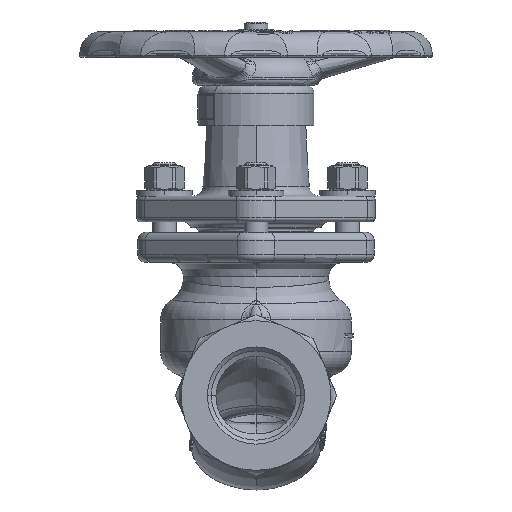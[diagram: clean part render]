
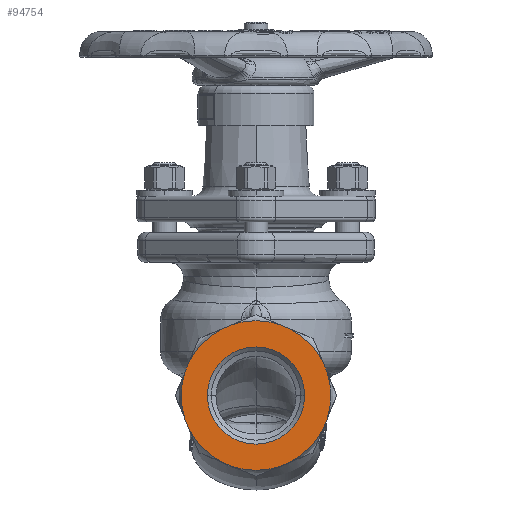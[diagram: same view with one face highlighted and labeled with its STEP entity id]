
A CAD part, left-side view. The second image highlights one B-rep face of the part: STEP entity #94754.
In plain terms, the highlighted planar face has unit normal (-1, 0, 0).
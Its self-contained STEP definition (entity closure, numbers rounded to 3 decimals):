
#10859=CARTESIAN_POINT('',(-92.5,0.,0.));
#10860=DIRECTION('',(1.,0.,0.));
#10861=DIRECTION('',(0.,-1.,0.));
#10862=AXIS2_PLACEMENT_3D('',#10859,#10860,#10861);
#10864=CARTESIAN_POINT('',(-92.5,0.,0.));
#10865=DIRECTION('',(1.,0.,0.));
#10866=DIRECTION('',(0.,1.,0.));
#10867=AXIS2_PLACEMENT_3D('',#10864,#10865,#10866);
#10869=DIRECTION('',(0.,-0.924,-0.383));
#10870=VECTOR('',#10869,5.509);
#10871=CARTESIAN_POINT('',(-92.5,-11.806,35.7));
#10872=LINE('',#10871,#10870);
#10877=CARTESIAN_POINT('',(-92.5,0.,0.));
#10878=DIRECTION('',(-1.,0.,0.));
#10879=DIRECTION('',(0.,-0.314,0.949));
#10880=AXIS2_PLACEMENT_3D('',#10877,#10878,#10879);
#10904=DIRECTION('',(0.,-0.924,0.383));
#10905=VECTOR('',#10904,5.509);
#10906=CARTESIAN_POINT('',(-92.5,16.895,33.591));
#10907=LINE('',#10906,#10905);
#10912=CARTESIAN_POINT('',(-92.5,0.,0.));
#10913=DIRECTION('',(-1.,0.,0.));
#10914=DIRECTION('',(0.,0.449,0.893));
#10915=AXIS2_PLACEMENT_3D('',#10912,#10913,#10914);
#10939=DIRECTION('',(0.,-0.383,0.924));
#10940=VECTOR('',#10939,5.509);
#10941=CARTESIAN_POINT('',(-92.5,35.7,11.806));
#10942=LINE('',#10941,#10940);
#10947=CARTESIAN_POINT('',(-92.5,0.,0.));
#10948=DIRECTION('',(-1.,0.,0.));
#10949=DIRECTION('',(0.,0.949,0.314));
#10950=AXIS2_PLACEMENT_3D('',#10947,#10948,#10949);
#10974=DIRECTION('',(0.,0.383,0.924));
#10975=VECTOR('',#10974,5.509);
#10976=CARTESIAN_POINT('',(-92.5,33.591,-16.895));
#10977=LINE('',#10976,#10975);
#10982=CARTESIAN_POINT('',(-92.5,0.,0.));
#10983=DIRECTION('',(-1.,0.,0.));
#10984=DIRECTION('',(0.,0.893,-0.449));
#10985=AXIS2_PLACEMENT_3D('',#10982,#10983,#10984);
#11009=DIRECTION('',(0.,0.924,0.383));
#11010=VECTOR('',#11009,5.509);
#11011=CARTESIAN_POINT('',(-92.5,11.806,-35.7));
#11012=LINE('',#11011,#11010);
#11017=CARTESIAN_POINT('',(-92.5,0.,0.));
#11018=DIRECTION('',(-1.,0.,0.));
#11019=DIRECTION('',(0.,0.314,-0.949));
#11020=AXIS2_PLACEMENT_3D('',#11017,#11018,#11019);
#11044=DIRECTION('',(0.,0.924,-0.383));
#11045=VECTOR('',#11044,5.509);
#11046=CARTESIAN_POINT('',(-92.5,-16.895,-33.591));
#11047=LINE('',#11046,#11045);
#11052=CARTESIAN_POINT('',(-92.5,0.,0.));
#11053=DIRECTION('',(-1.,0.,0.));
#11054=DIRECTION('',(0.,-0.449,-0.893));
#11055=AXIS2_PLACEMENT_3D('',#11052,#11053,#11054);
#11079=DIRECTION('',(0.,0.383,-0.924));
#11080=VECTOR('',#11079,5.509);
#11081=CARTESIAN_POINT('',(-92.5,-35.7,-11.806));
#11082=LINE('',#11081,#11080);
#11087=CARTESIAN_POINT('',(-92.5,0.,0.));
#11088=DIRECTION('',(-1.,0.,0.));
#11089=DIRECTION('',(0.,-0.949,-0.314));
#11090=AXIS2_PLACEMENT_3D('',#11087,#11088,#11089);
#11114=DIRECTION('',(0.,-0.383,-0.924));
#11115=VECTOR('',#11114,5.509);
#11116=CARTESIAN_POINT('',(-92.5,-33.591,16.895));
#11117=LINE('',#11116,#11115);
#11122=CARTESIAN_POINT('',(-92.5,0.,0.));
#11123=DIRECTION('',(-1.,0.,0.));
#11124=DIRECTION('',(0.,-0.893,0.449));
#11125=AXIS2_PLACEMENT_3D('',#11122,#11123,#11124);
#70023=CARTESIAN_POINT('',(-92.5,-11.806,35.7));
#70024=CARTESIAN_POINT('',(-92.5,-16.895,33.591));
#70025=VERTEX_POINT('',#70023);
#70026=VERTEX_POINT('',#70024);
#70031=CARTESIAN_POINT('',(-92.5,-33.591,16.895));
#70032=CARTESIAN_POINT('',(-92.5,-35.7,11.806));
#70033=VERTEX_POINT('',#70031);
#70034=VERTEX_POINT('',#70032);
#70039=CARTESIAN_POINT('',(-92.5,-35.7,-11.806));
#70040=CARTESIAN_POINT('',(-92.5,-33.591,-16.895));
#70041=VERTEX_POINT('',#70039);
#70042=VERTEX_POINT('',#70040);
#70047=CARTESIAN_POINT('',(-92.5,-16.895,-33.591));
#70048=CARTESIAN_POINT('',(-92.5,-11.806,-35.7));
#70049=VERTEX_POINT('',#70047);
#70050=VERTEX_POINT('',#70048);
#70055=CARTESIAN_POINT('',(-92.5,11.806,-35.7));
#70056=CARTESIAN_POINT('',(-92.5,16.895,-33.591));
#70057=VERTEX_POINT('',#70055);
#70058=VERTEX_POINT('',#70056);
#70063=CARTESIAN_POINT('',(-92.5,33.591,-16.895));
#70064=CARTESIAN_POINT('',(-92.5,35.7,-11.806));
#70065=VERTEX_POINT('',#70063);
#70066=VERTEX_POINT('',#70064);
#70071=CARTESIAN_POINT('',(-92.5,35.7,11.806));
#70072=CARTESIAN_POINT('',(-92.5,33.591,16.895));
#70073=VERTEX_POINT('',#70071);
#70074=VERTEX_POINT('',#70072);
#70079=CARTESIAN_POINT('',(-92.5,16.895,33.591));
#70080=CARTESIAN_POINT('',(-92.5,11.806,35.7));
#70081=VERTEX_POINT('',#70079);
#70082=VERTEX_POINT('',#70080);
#70117=CARTESIAN_POINT('',(-92.5,-24.423,0.));
#70118=CARTESIAN_POINT('',(-92.5,24.423,0.));
#70119=VERTEX_POINT('',#70117);
#70120=VERTEX_POINT('',#70118);
#94710=CARTESIAN_POINT('',(-92.5,0.,0.));
#94711=DIRECTION('',(-1.,0.,0.));
#94712=DIRECTION('',(0.,0.,1.));
#94713=AXIS2_PLACEMENT_3D('',#94710,#94711,#94712);
#94714=PLANE('',#94713);
#94716=ORIENTED_EDGE('',*,*,#94715,.T.);
#94718=ORIENTED_EDGE('',*,*,#94717,.F.);
#94720=ORIENTED_EDGE('',*,*,#94719,.T.);
#94722=ORIENTED_EDGE('',*,*,#94721,.F.);
#94724=ORIENTED_EDGE('',*,*,#94723,.T.);
#94726=ORIENTED_EDGE('',*,*,#94725,.F.);
#94728=ORIENTED_EDGE('',*,*,#94727,.T.);
#94730=ORIENTED_EDGE('',*,*,#94729,.F.);
#94732=ORIENTED_EDGE('',*,*,#94731,.T.);
#94734=ORIENTED_EDGE('',*,*,#94733,.F.);
#94736=ORIENTED_EDGE('',*,*,#94735,.T.);
#94738=ORIENTED_EDGE('',*,*,#94737,.F.);
#94740=ORIENTED_EDGE('',*,*,#94739,.T.);
#94742=ORIENTED_EDGE('',*,*,#94741,.F.);
#94744=ORIENTED_EDGE('',*,*,#94743,.T.);
#94746=ORIENTED_EDGE('',*,*,#94745,.F.);
#94747=EDGE_LOOP('',(#94716,#94718,#94720,#94722,#94724,#94726,#94728,#94730,
#94732,#94734,#94736,#94738,#94740,#94742,#94744,#94746));
#94748=FACE_OUTER_BOUND('',#94747,.F.);
#94749=ORIENTED_EDGE('',*,*,#94700,.F.);
#94751=ORIENTED_EDGE('',*,*,#94750,.F.);
#94752=EDGE_LOOP('',(#94749,#94751));
#94753=FACE_BOUND('',#94752,.F.);
#94754=ADVANCED_FACE('',(#94748,#94753),#94714,.T.);
#10863=CIRCLE('',#10862,24.423);
#10868=CIRCLE('',#10867,24.423);
#10881=CIRCLE('',#10880,37.601);
#10916=CIRCLE('',#10915,37.601);
#10951=CIRCLE('',#10950,37.601);
#10986=CIRCLE('',#10985,37.601);
#11021=CIRCLE('',#11020,37.601);
#11056=CIRCLE('',#11055,37.601);
#11091=CIRCLE('',#11090,37.601);
#11126=CIRCLE('',#11125,37.601);
#94700=EDGE_CURVE('',#70119,#70120,#10863,.T.);
#94715=EDGE_CURVE('',#70025,#70026,#10872,.T.);
#94717=EDGE_CURVE('',#70033,#70026,#11126,.T.);
#94719=EDGE_CURVE('',#70033,#70034,#11117,.T.);
#94721=EDGE_CURVE('',#70041,#70034,#11091,.T.);
#94723=EDGE_CURVE('',#70041,#70042,#11082,.T.);
#94725=EDGE_CURVE('',#70049,#70042,#11056,.T.);
#94727=EDGE_CURVE('',#70049,#70050,#11047,.T.);
#94729=EDGE_CURVE('',#70057,#70050,#11021,.T.);
#94731=EDGE_CURVE('',#70057,#70058,#11012,.T.);
#94733=EDGE_CURVE('',#70065,#70058,#10986,.T.);
#94735=EDGE_CURVE('',#70065,#70066,#10977,.T.);
#94737=EDGE_CURVE('',#70073,#70066,#10951,.T.);
#94739=EDGE_CURVE('',#70073,#70074,#10942,.T.);
#94741=EDGE_CURVE('',#70081,#70074,#10916,.T.);
#94743=EDGE_CURVE('',#70081,#70082,#10907,.T.);
#94745=EDGE_CURVE('',#70025,#70082,#10881,.T.);
#94750=EDGE_CURVE('',#70120,#70119,#10868,.T.);
